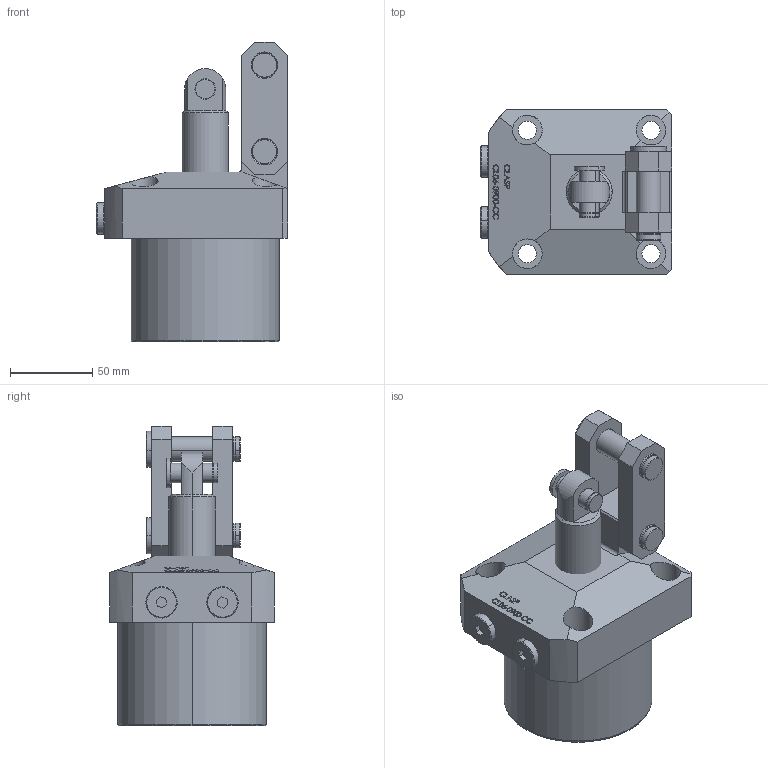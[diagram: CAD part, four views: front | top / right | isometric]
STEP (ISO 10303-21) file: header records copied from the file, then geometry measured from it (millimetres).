
FILE_DESCRIPTION (( 'STEP AP203' ), '1' );
FILE_NAME ('CL06-0900 cc.STEP', '2022-07-05T17:42:38', ( '' ), ( '' ), 'SwSTEP 2.0', 'SolidWorks 2017', '' );
FILE_SCHEMA (( 'CONFIG_CONTROL_DESIGN' ));
Length unit declared in the file: millimetre
Products named in the file (7): CL06-0900 Part3 cc; CL06-0900 Part2 cc; CL06-0900 Part5 cc; CL06-0900 Part6 cc; CL06-0900 Part7 cc; CL06-0900 cc; CL06-0900 Part1 cc
Assembly tree (9 placements, depth 2):
  CL06-0900 cc
    CL06-0900 Part1 cc
    CL06-0900 Part3 cc
    CL06-0900 Part2 cc  x2
    CL06-0900 Part5 cc  x2
    CL06-0900 Part6 cc  x2
    CL06-0900 Part7 cc
Bounding box: 116 x 100 x 182 mm (x, y, z)
Volume: 890703.8 mm3; surface area: 97436.7 mm2
Topology: 9 solids, 9 shells, 407 faces, 989 edges, 640 vertices
Faces by surface type: plane 167, bspline 111, cylinder 81, cone 48
Entity records: 18192 total; most frequent: CARTESIAN_POINT 9673, ORIENTED_EDGE 1738, DIRECTION 1281, EDGE_CURVE 869, VERTEX_POINT 568, LINE 473, VECTOR 473, EDGE_LOOP 409
